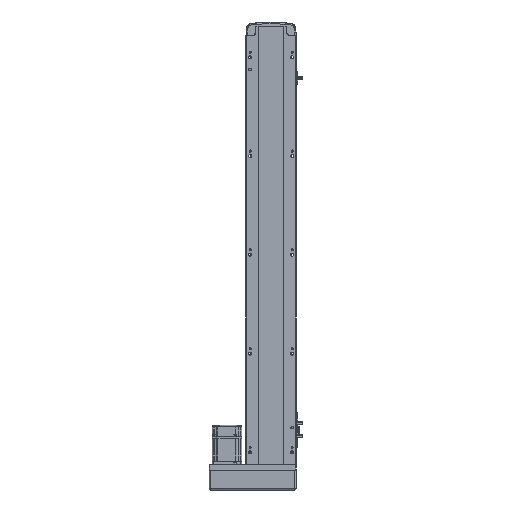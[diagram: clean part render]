
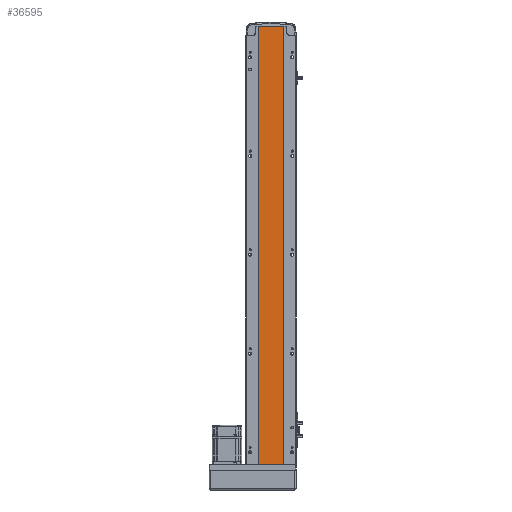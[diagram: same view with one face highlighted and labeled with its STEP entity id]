
A CAD part, front view. The second image highlights one B-rep face of the part: STEP entity #36595.
In plain terms, the highlighted planar face has unit normal (0, -1, 0).
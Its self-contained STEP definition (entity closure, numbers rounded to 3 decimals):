
#6151 = CARTESIAN_POINT ( 'NONE',  ( -24.5, 2., 887. ) ) ;
#8626 = ORIENTED_EDGE ( 'NONE', *, *, #47006, .T. ) ;
#9167 = CARTESIAN_POINT ( 'NONE',  ( -24.5, 2., 887. ) ) ;
#9259 = VERTEX_POINT ( 'NONE', #50084 ) ;
#9654 = EDGE_CURVE ( 'NONE', #20680, #25825, #31255, .T. ) ;
#10222 = LINE ( 'NONE', #39629, #57936 ) ;
#10663 = LINE ( 'NONE', #56392, #33874 ) ;
#11262 = PLANE ( 'NONE',  #17446 ) ;
#14416 = DIRECTION ( 'NONE',  ( 0., 0., -1. ) ) ;
#14666 = VECTOR ( 'NONE', #23930, 1000. ) ;
#15534 = DIRECTION ( 'NONE',  ( 1., 0., 0. ) ) ;
#16088 = EDGE_CURVE ( 'NONE', #25825, #27084, #10663, .T. ) ;
#16163 = DIRECTION ( 'NONE',  ( 0., 0., 1. ) ) ;
#17446 = AXIS2_PLACEMENT_3D ( 'NONE', #25228, #57520, #16163 ) ;
#19425 = DIRECTION ( 'NONE',  ( 0., 0., -1. ) ) ;
#20680 = VERTEX_POINT ( 'NONE', #6151 ) ;
#21359 = VECTOR ( 'NONE', #14416, 1000. ) ;
#23456 = ORIENTED_EDGE ( 'NONE', *, *, #9654, .F. ) ;
#23930 = DIRECTION ( 'NONE',  ( 1., 0., 0. ) ) ;
#25228 = CARTESIAN_POINT ( 'NONE',  ( 0., 2., 887. ) ) ;
#25825 = VERTEX_POINT ( 'NONE', #39811 ) ;
#27084 = VERTEX_POINT ( 'NONE', #30755 ) ;
#30754 = LINE ( 'NONE', #32605, #21359 ) ;
#30755 = CARTESIAN_POINT ( 'NONE',  ( 24.5, 2., 0. ) ) ;
#31255 = LINE ( 'NONE', #9167, #14666 ) ;
#32605 = CARTESIAN_POINT ( 'NONE',  ( -24.5, 2., 887. ) ) ;
#33874 = VECTOR ( 'NONE', #19425, 1000. ) ;
#36501 = ORIENTED_EDGE ( 'NONE', *, *, #54498, .T. ) ;
#36595 = ADVANCED_FACE ( 'NONE', ( #53485 ), #11262, .F. ) ;
#39629 = CARTESIAN_POINT ( 'NONE',  ( 0., 2., 0. ) ) ;
#39811 = CARTESIAN_POINT ( 'NONE',  ( 24.5, 2., 887. ) ) ;
#47006 = EDGE_CURVE ( 'NONE', #9259, #27084, #10222, .T. ) ;
#50084 = CARTESIAN_POINT ( 'NONE',  ( -24.5, 2., 0. ) ) ;
#50702 = ORIENTED_EDGE ( 'NONE', *, *, #16088, .F. ) ;
#53485 = FACE_OUTER_BOUND ( 'NONE', #58768, .T. ) ;
#54498 = EDGE_CURVE ( 'NONE', #20680, #9259, #30754, .T. ) ;
#56392 = CARTESIAN_POINT ( 'NONE',  ( 24.5, 2., 887. ) ) ;
#57520 = DIRECTION ( 'NONE',  ( 0., 1., 0. ) ) ;
#57936 = VECTOR ( 'NONE', #15534, 1000. ) ;
#58768 = EDGE_LOOP ( 'NONE', ( #8626, #50702, #23456, #36501 ) ) ;
